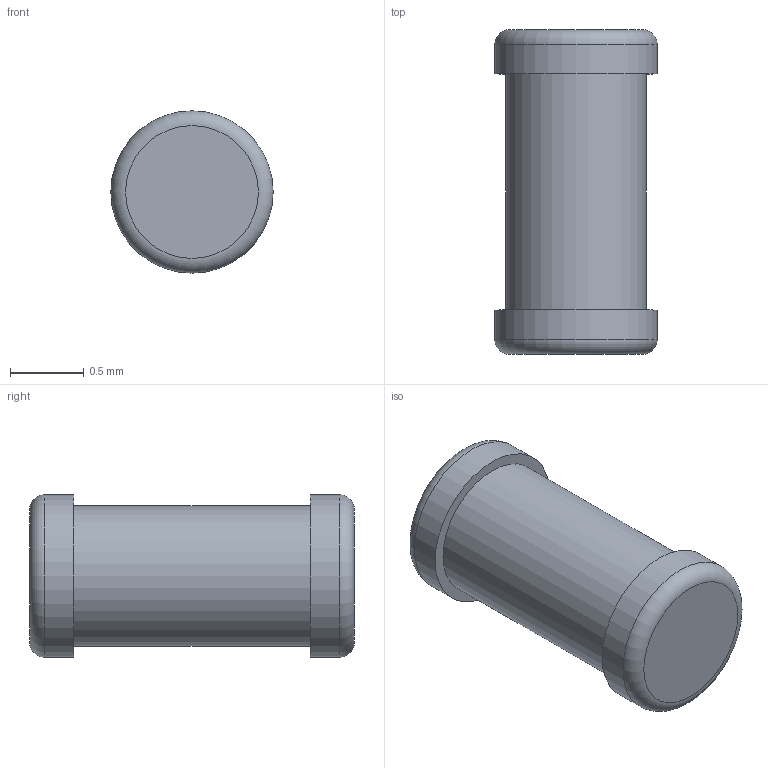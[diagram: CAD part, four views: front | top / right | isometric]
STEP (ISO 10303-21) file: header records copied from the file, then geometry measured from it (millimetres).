
FILE_DESCRIPTION(('STEP AP203'), '1');
FILE_NAME('Ð1-155 0102', '', ('UNSPECIFIED'), ('UNSPECIFIED'), 'ASCON STEP Converter 1.6', 'ASCON Math Kernel', '');
FILE_SCHEMA(('CONFIG_CONTROL_DESIGN'));
Length unit declared in the file: millimetre
Bounding box: 1.1 x 2.2 x 1.1 mm (x, y, z)
Volume: 1.7 mm3; surface area: 8.9 mm2
Topology: 1 solids, 1 shells, 9 faces, 13 edges, 8 vertices
Faces by surface type: plane 4, cylinder 3, torus 2
Full cylindrical faces by diameter (mm): 0.95 x1, 1.1 x2
Entity records: 290 total; most frequent: DIRECTION 36, CARTESIAN_POINT 26, AXIS2_PLACEMENT_3D 18, EDGE_LOOP 16, ORIENTED_EDGE 16, COLOUR_RGB 10, FILL_AREA_STYLE_COLOUR 10, FILL_AREA_STYLE 10
